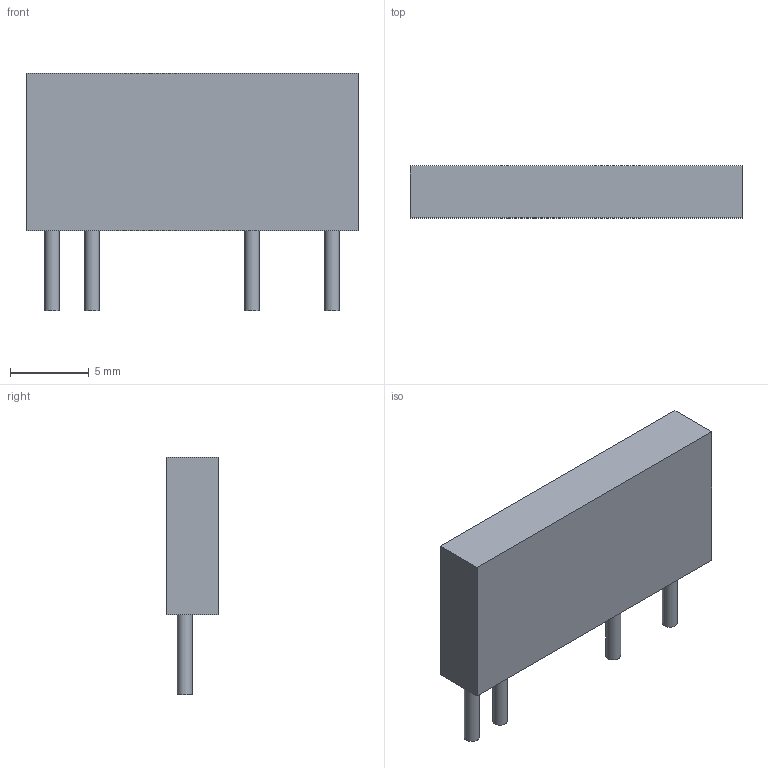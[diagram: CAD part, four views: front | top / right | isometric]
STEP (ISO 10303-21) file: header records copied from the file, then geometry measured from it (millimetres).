
FILE_DESCRIPTION(('FreeCAD Model'),'2;1');
FILE_NAME('/var/www/3D/0T/689022.1.2.stp','2020-04-09T06:11:52',( 'Author'),(''),'Open CASCADE STEP processor 6.9','FreeCAD','Unknown' );
FILE_SCHEMA(('AUTOMOTIVE_DESIGN { 1 0 10303 214 1 1 1 1 }'));
Length unit declared in the file: millimetre
Products named in the file (3): ASSEMBLY; Body; Leads
Assembly tree (5 placements, depth 2):
  ASSEMBLY
    Body
    Leads  x4
Bounding box: 21.08 x 3.3 x 15.1 mm (x, y, z)
Volume: 754 mm3; surface area: 893.1 mm2
Topology: 17 solids, 17 shells, 54 faces, 60 edges, 40 vertices
Faces by surface type: plane 38, cylinder 16
Full cylindrical faces by diameter (mm): 0.95 x16
Entity records: 799 total; most frequent: DIRECTION 128, CARTESIAN_POINT 112, LINE 56, VECTOR 56, ORIENTED_EDGE 48, PCURVE 48, DEFINITIONAL_REPRESENTATION 48, AXIS2_PLACEMENT_3D 32
